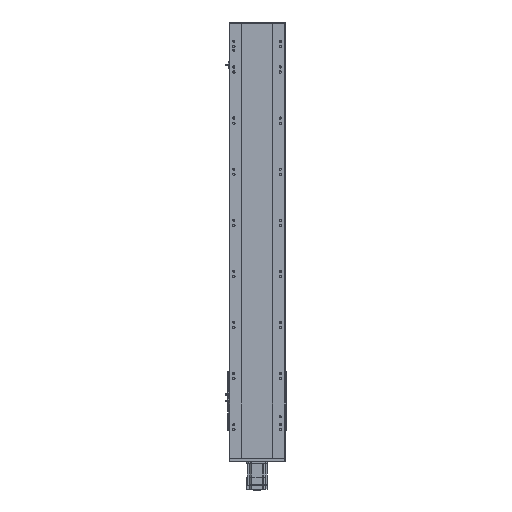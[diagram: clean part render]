
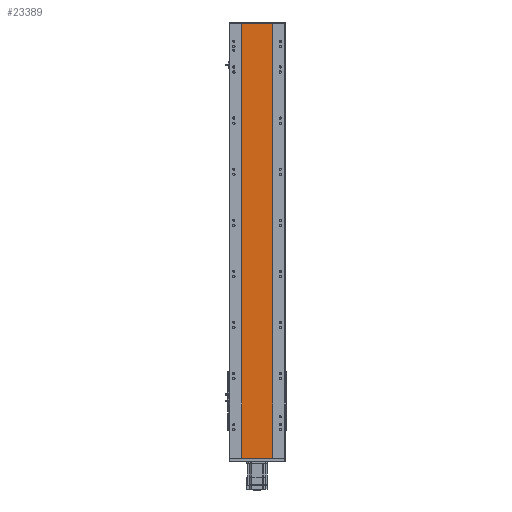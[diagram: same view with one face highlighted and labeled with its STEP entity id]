
A CAD part, front view. The second image highlights one B-rep face of the part: STEP entity #23389.
In plain terms, the highlighted planar face has unit normal (0, -1, 0).
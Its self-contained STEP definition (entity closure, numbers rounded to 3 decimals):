
#906 = DIRECTION ( 'NONE',  ( 1., 0., 0. ) ) ;
#1110 = EDGE_CURVE ( 'NONE', #6745, #43045, #35481, .T. ) ;
#1778 = PLANE ( 'NONE',  #39377 ) ;
#2045 = ORIENTED_EDGE ( 'NONE', *, *, #43306, .F. ) ;
#3010 = VECTOR ( 'NONE', #906, 1000. ) ;
#5740 = DIRECTION ( 'NONE',  ( 1., 0., 0. ) ) ;
#6284 = DIRECTION ( 'NONE',  ( 0., 0., -1. ) ) ;
#6745 = VERTEX_POINT ( 'NONE', #39514 ) ;
#7310 = CARTESIAN_POINT ( 'NONE',  ( 0., 155.016, 0. ) ) ;
#11397 = CARTESIAN_POINT ( 'NONE',  ( 432.408, 155.016, 0. ) ) ;
#13748 = CARTESIAN_POINT ( 'NONE',  ( 551.58, 155.016, 1701. ) ) ;
#15873 = LINE ( 'NONE', #29585, #20981 ) ;
#16219 = VERTEX_POINT ( 'NONE', #25654 ) ;
#17062 = VECTOR ( 'NONE', #6284, 1000. ) ;
#18678 = CARTESIAN_POINT ( 'NONE',  ( 432.408, 155.016, 1701. ) ) ;
#20328 = VERTEX_POINT ( 'NONE', #22266 ) ;
#20981 = VECTOR ( 'NONE', #5740, 1000. ) ;
#21446 = FACE_OUTER_BOUND ( 'NONE', #32379, .T. ) ;
#21451 = EDGE_CURVE ( 'NONE', #6745, #16219, #15873, .T. ) ;
#22266 = CARTESIAN_POINT ( 'NONE',  ( 551.58, 155.016, 0. ) ) ;
#23389 = ADVANCED_FACE ( 'NONE', ( #21446 ), #1778, .F. ) ;
#25295 = VECTOR ( 'NONE', #42354, 1000. ) ;
#25654 = CARTESIAN_POINT ( 'NONE',  ( 551.58, 155.016, 1701. ) ) ;
#29585 = CARTESIAN_POINT ( 'NONE',  ( 0., 155.016, 1701. ) ) ;
#30874 = EDGE_CURVE ( 'NONE', #43045, #20328, #37348, .T. ) ;
#32134 = ORIENTED_EDGE ( 'NONE', *, *, #30874, .T. ) ;
#32379 = EDGE_LOOP ( 'NONE', ( #32134, #2045, #42352, #34067 ) ) ;
#33115 = DIRECTION ( 'NONE',  ( 0., 0., 1. ) ) ;
#34067 = ORIENTED_EDGE ( 'NONE', *, *, #1110, .T. ) ;
#35481 = LINE ( 'NONE', #18678, #25295 ) ;
#37348 = LINE ( 'NONE', #7310, #3010 ) ;
#39377 = AXIS2_PLACEMENT_3D ( 'NONE', #41976, #42621, #33115 ) ;
#39514 = CARTESIAN_POINT ( 'NONE',  ( 432.408, 155.016, 1701. ) ) ;
#41976 = CARTESIAN_POINT ( 'NONE',  ( 0., 155.016, 1701. ) ) ;
#42352 = ORIENTED_EDGE ( 'NONE', *, *, #21451, .F. ) ;
#42354 = DIRECTION ( 'NONE',  ( 0., 0., -1. ) ) ;
#42621 = DIRECTION ( 'NONE',  ( 0., 1., 0. ) ) ;
#43045 = VERTEX_POINT ( 'NONE', #11397 ) ;
#43306 = EDGE_CURVE ( 'NONE', #16219, #20328, #43373, .T. ) ;
#43373 = LINE ( 'NONE', #13748, #17062 ) ;
